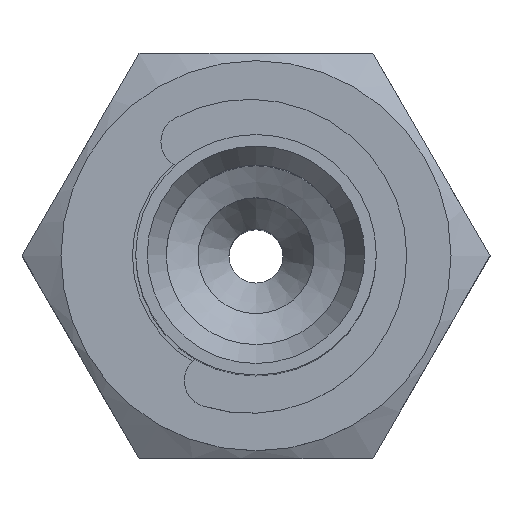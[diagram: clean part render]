
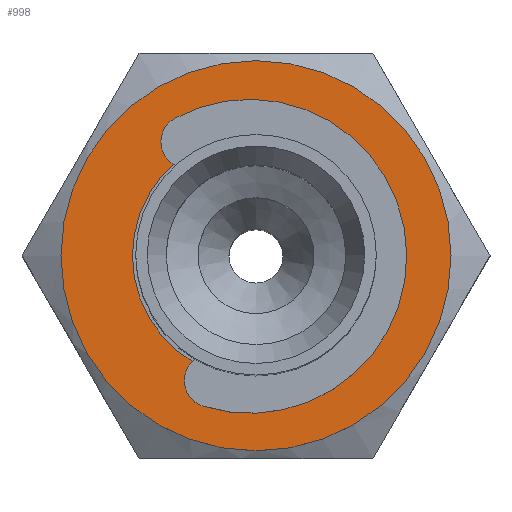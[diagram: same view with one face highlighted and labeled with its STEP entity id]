
A CAD part, top view. The second image highlights one B-rep face of the part: STEP entity #998.
In plain terms, the highlighted planar face has unit normal (0, 0, 1) as drawn and (0, 1, 0) by its records, which use the part's own axes.
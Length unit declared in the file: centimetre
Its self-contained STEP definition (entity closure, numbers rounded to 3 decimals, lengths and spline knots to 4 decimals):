
#475=PLANE('',#1073);
#541=VERTEX_POINT('',#2335);
#542=VERTEX_POINT('',#2343);
#581=CIRCLE('',#1067,0.2439);
#582=CIRCLE('',#1072,0.385);
#646=EDGE_CURVE('',#541,#541,#581,.T.);
#649=EDGE_CURVE('',#542,#542,#582,.T.);
#778=ORIENTED_EDGE('',*,*,#646,.T.);
#779=ORIENTED_EDGE('',*,*,#649,.F.);
#873=EDGE_LOOP('',(#778));
#874=EDGE_LOOP('',(#779));
#950=FACE_BOUND('',#873,.T.);
#951=FACE_BOUND('',#874,.T.);
#998=ADVANCED_FACE('',(#950,#951),#475,.T.);
#1067=AXIS2_PLACEMENT_3D('',#2334,#2492,#2493);
#1072=AXIS2_PLACEMENT_3D('',#2342,#2501,#2502);
#1073=AXIS2_PLACEMENT_3D('',#2344,#2503,$);
#2334=CARTESIAN_POINT('',(0.,0.753,0.));
#2335=CARTESIAN_POINT('',(-0.2439,0.753,0.));
#2342=CARTESIAN_POINT('',(0.,0.753,0.));
#2343=CARTESIAN_POINT('',(0.385,0.753,0.));
#2344=CARTESIAN_POINT('',(0.,0.753,0.));
#2492=DIRECTION('',(0.,-1.,0.));
#2493=DIRECTION('',(0.244,0.,0.));
#2501=DIRECTION('',(0.,-1.,0.));
#2502=DIRECTION('',(0.385,0.,0.));
#2503=DIRECTION('',(0.,1.,0.));
